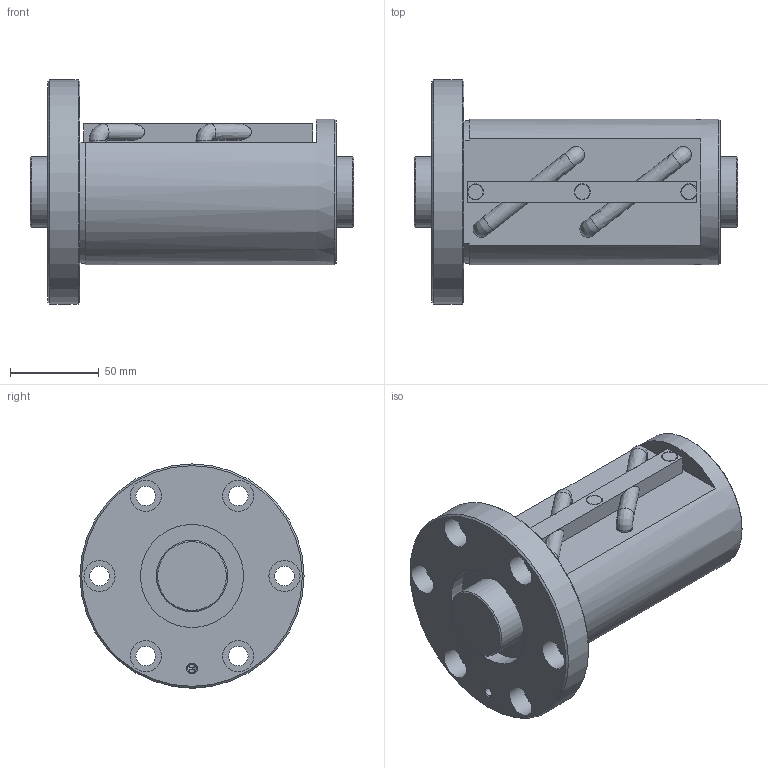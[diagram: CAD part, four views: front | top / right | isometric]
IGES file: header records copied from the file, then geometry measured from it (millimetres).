
Start section: Data from Parasolid IGES Translator 26.0.171, Copyright(c) 2006 Siemens PLM Software. All Rights Reserved.
Global section: file name: BIF4020V-5RRG0+182LC0_000.igs; native system: By Siemens PLM Incorporated; preprocessor: XPlus GENERIC/IGES 26.0.171; author: Noname; organization: Noname; date: 20240715.082446; units: millimetre
Bounding box: 182 x 126 x 126 mm (x, y, z)
Surface area: 123909.6 mm2 (no closed solid volume)
Topology: 0 solids, 0 shells, 99 faces, 481 edges, 442 vertices
Faces by surface type: revolution 58, extrusion 41
